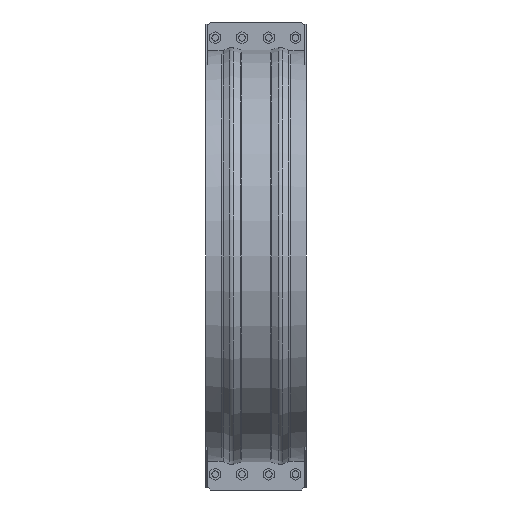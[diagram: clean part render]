
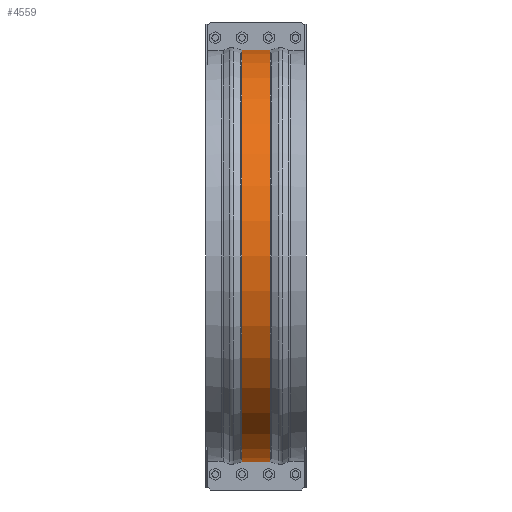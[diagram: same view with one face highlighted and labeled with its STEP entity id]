
A CAD part, front view. The second image highlights one B-rep face of the part: STEP entity #4559.
In plain terms, the highlighted cylindrical face has radius 781.352 mm (diameter 1562.7 mm), a partial arc.
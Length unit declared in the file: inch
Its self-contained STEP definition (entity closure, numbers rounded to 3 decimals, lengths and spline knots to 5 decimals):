
#414=FACE_OUTER_BOUND('',#671,.T.);
#671=EDGE_LOOP('',(#3465,#3466,#3467,#3468));
#1036=LINE('',#7017,#1485);
#1044=LINE('',#7149,#1493);
#1485=VECTOR('',#5630,0.3937);
#1493=VECTOR('',#5690,0.3937);
#1771=CIRCLE('',#4875,30.76189);
#1773=CIRCLE('',#4879,30.76189);
#2060=VERTEX_POINT('',#7009);
#2061=VERTEX_POINT('',#7016);
#2076=VERTEX_POINT('',#7134);
#2078=VERTEX_POINT('',#7147);
#2565=EDGE_CURVE('',#2061,#2060,#1036,.T.);
#2590=EDGE_CURVE('',#2076,#2061,#1771,.T.);
#2594=EDGE_CURVE('',#2078,#2060,#1773,.T.);
#2595=EDGE_CURVE('',#2078,#2076,#1044,.T.);
#3465=ORIENTED_EDGE('',*,*,#2565,.T.);
#3466=ORIENTED_EDGE('',*,*,#2594,.F.);
#3467=ORIENTED_EDGE('',*,*,#2595,.T.);
#3468=ORIENTED_EDGE('',*,*,#2590,.T.);
#4182=CYLINDRICAL_SURFACE('',#4878,30.76189);
#4559=ADVANCED_FACE('',(#414),#4182,.T.);
#4875=AXIS2_PLACEMENT_3D('',#7135,#5679,#5680);
#4878=AXIS2_PLACEMENT_3D('',#7146,#5686,#5687);
#4879=AXIS2_PLACEMENT_3D('',#7148,#5688,#5689);
#5630=DIRECTION('',(1.,0.,0.));
#5679=DIRECTION('center_axis',(1.,0.,0.));
#5680=DIRECTION('ref_axis',(0.,0.,-1.));
#5686=DIRECTION('center_axis',(1.,0.,0.));
#5687=DIRECTION('ref_axis',(0.,-1.,0.));
#5688=DIRECTION('center_axis',(1.,0.,0.));
#5689=DIRECTION('ref_axis',(0.,0.,-1.));
#5690=DIRECTION('',(-1.,0.,0.));
#7009=CARTESIAN_POINT('',(2.15101,-0.375,-30.7596));
#7016=CARTESIAN_POINT('',(-2.15101,-0.375,-30.7596));
#7017=CARTESIAN_POINT('',(0.,-0.375,-30.7596));
#7134=CARTESIAN_POINT('',(-2.15101,-0.375,30.7596));
#7135=CARTESIAN_POINT('Origin',(-2.15101,0.,0.));
#7146=CARTESIAN_POINT('Origin',(0.,0.,0.));
#7147=CARTESIAN_POINT('',(2.15101,-0.375,30.7596));
#7148=CARTESIAN_POINT('Origin',(2.15101,0.,0.));
#7149=CARTESIAN_POINT('',(0.,-0.375,30.7596));
